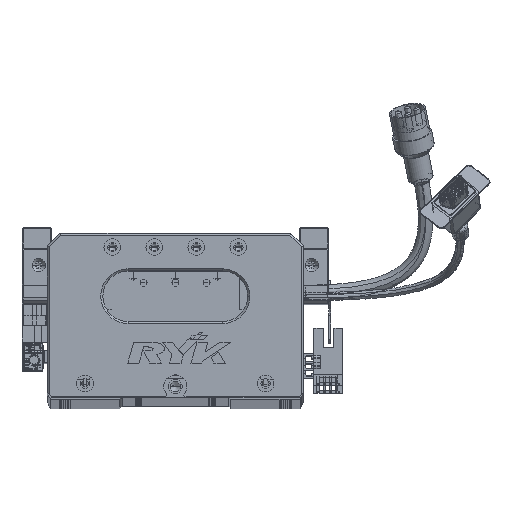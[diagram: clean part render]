
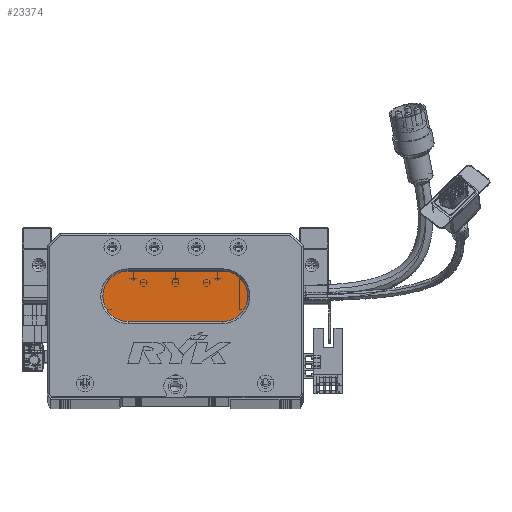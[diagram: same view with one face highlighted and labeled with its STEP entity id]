
A CAD part, top view. The second image highlights one B-rep face of the part: STEP entity #23374.
In plain terms, the highlighted planar face has unit normal (0, 0, 1) as drawn and (0, 0, -1) by its records, which use the part's own axes.
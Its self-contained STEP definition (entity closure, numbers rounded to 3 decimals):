
#498 = CARTESIAN_POINT ( 'NONE',  ( 38.5, 60., 13. ) ) ;
#8200 = AXIS2_PLACEMENT_3D ( 'NONE', #32002, #51668, #24145 ) ;
#9639 = CIRCLE ( 'NONE', #8200, 12. ) ;
#10293 = VERTEX_POINT ( 'NONE', #104842 ) ;
#12101 = ORIENTED_EDGE ( 'NONE', *, *, #22811, .T. ) ;
#15829 = AXIS2_PLACEMENT_3D ( 'NONE', #72641, #25814, #44763 ) ;
#16244 = LINE ( 'NONE', #44507, #113297 ) ;
#22811 = EDGE_CURVE ( 'NONE', #65116, #61878, #16244, .T. ) ;
#23374 = ADVANCED_FACE ( 'NONE', ( #104320 ), #35689, .T. ) ;
#24145 = DIRECTION ( 'NONE',  ( -1., 0., 0. ) ) ;
#25814 = DIRECTION ( 'NONE',  ( 0., 0., -1. ) ) ;
#26762 = CARTESIAN_POINT ( 'NONE',  ( 83.5, 60., 13. ) ) ;
#31161 = AXIS2_PLACEMENT_3D ( 'NONE', #79939, #61903, #52801 ) ;
#32002 = CARTESIAN_POINT ( 'NONE',  ( 38.5, 48., 13. ) ) ;
#34757 = CARTESIAN_POINT ( 'NONE',  ( 26.5, 48., 13. ) ) ;
#35586 = AXIS2_PLACEMENT_3D ( 'NONE', #59837, #88152, #88566 ) ;
#35689 = PLANE ( 'NONE',  #15829 ) ;
#35727 = CIRCLE ( 'NONE', #31161, 12. ) ;
#44507 = CARTESIAN_POINT ( 'NONE',  ( 83.5, 36., 13. ) ) ;
#44763 = DIRECTION ( 'NONE',  ( -1., 0., 0. ) ) ;
#46913 = CIRCLE ( 'NONE', #35586, 12. ) ;
#50890 = EDGE_CURVE ( 'NONE', #81236, #119334, #46913, .T. ) ;
#51668 = DIRECTION ( 'NONE',  ( 0., 0., -1. ) ) ;
#52801 = DIRECTION ( 'NONE',  ( -1., 0., 0. ) ) ;
#53120 = EDGE_CURVE ( 'NONE', #61878, #81236, #9639, .T. ) ;
#56732 = DIRECTION ( 'NONE',  ( 1., 0., 0. ) ) ;
#59390 = LINE ( 'NONE', #26762, #106386 ) ;
#59837 = CARTESIAN_POINT ( 'NONE',  ( 38.5, 48., 13. ) ) ;
#61878 = VERTEX_POINT ( 'NONE', #93232 ) ;
#61903 = DIRECTION ( 'NONE',  ( 0., 0., -1. ) ) ;
#65116 = VERTEX_POINT ( 'NONE', #115210 ) ;
#72641 = CARTESIAN_POINT ( 'NONE',  ( 83.5, 48., 13. ) ) ;
#75517 = ORIENTED_EDGE ( 'NONE', *, *, #53120, .T. ) ;
#79669 = ORIENTED_EDGE ( 'NONE', *, *, #50890, .T. ) ;
#79939 = CARTESIAN_POINT ( 'NONE',  ( 83.5, 48., 13. ) ) ;
#81236 = VERTEX_POINT ( 'NONE', #34757 ) ;
#81416 = DIRECTION ( 'NONE',  ( -1., 0., 0. ) ) ;
#84373 = ORIENTED_EDGE ( 'NONE', *, *, #99302, .T. ) ;
#88152 = DIRECTION ( 'NONE',  ( 0., 0., -1. ) ) ;
#88566 = DIRECTION ( 'NONE',  ( -1., 0., 0. ) ) ;
#93232 = CARTESIAN_POINT ( 'NONE',  ( 38.5, 36., 13. ) ) ;
#94535 = ORIENTED_EDGE ( 'NONE', *, *, #120641, .T. ) ;
#99302 = EDGE_CURVE ( 'NONE', #10293, #65116, #35727, .T. ) ;
#101640 = EDGE_LOOP ( 'NONE', ( #84373, #12101, #75517, #79669, #94535 ) ) ;
#104320 = FACE_OUTER_BOUND ( 'NONE', #101640, .T. ) ;
#104842 = CARTESIAN_POINT ( 'NONE',  ( 83.5, 60., 13. ) ) ;
#106386 = VECTOR ( 'NONE', #56732, 1000. ) ;
#113297 = VECTOR ( 'NONE', #81416, 1000. ) ;
#115210 = CARTESIAN_POINT ( 'NONE',  ( 83.5, 36., 13. ) ) ;
#119334 = VERTEX_POINT ( 'NONE', #498 ) ;
#120641 = EDGE_CURVE ( 'NONE', #119334, #10293, #59390, .T. ) ;
